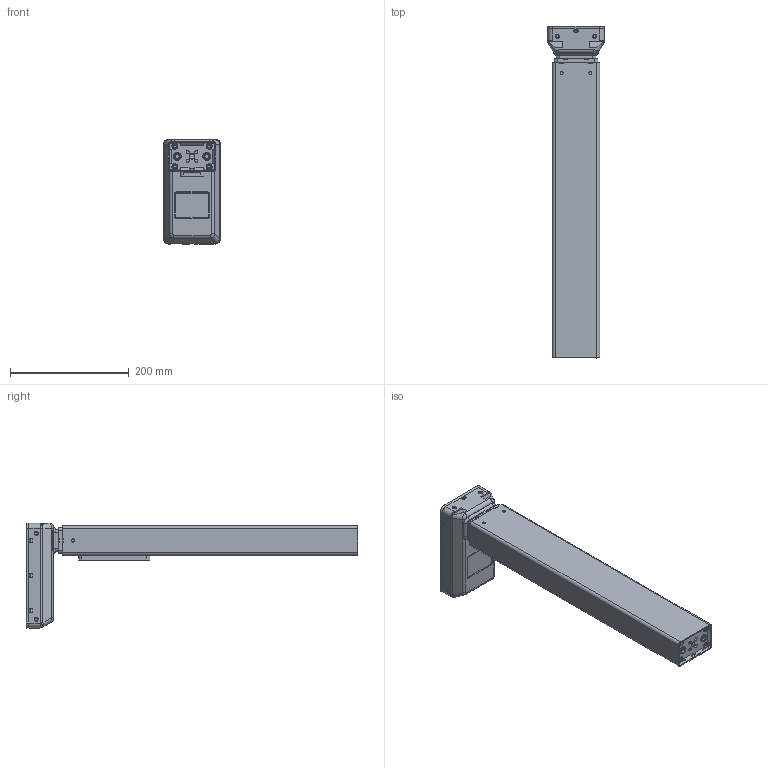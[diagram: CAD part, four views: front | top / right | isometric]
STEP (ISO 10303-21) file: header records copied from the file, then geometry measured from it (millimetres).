
FILE_DESCRIPTION((''),'2;1');
FILE_NAME('DL6_WITH_BRACKET_NEW_ASM','2019-11-04T14:27:33',('egb'),(''),'CREO PARAMETRIC BY PTC INC, 2018400','CREO PARAMETRIC BY PTC INC, 2018400','');
FILE_SCHEMA(('AUTOMOTIVE_DESIGN { 1 0 10303 214 1 1 1 1 }'));
Length unit declared in the file: millimetre
Products named in the file (4): DL6_OP_NEW; DL6_MP_; STANDART_MOTORHUS_DL6_NEW; DL6_WITH_BRACKET_NEW_ASM
Assembly tree (3 placements, depth 2):
  DL6_WITH_BRACKET_NEW_ASM
    DL6_OP_NEW
    DL6_MP_
    STANDART_MOTORHUS_DL6_NEW
Bounding box: 96.5 x 560 x 178.6 mm (x, y, z)
Volume: 2766958.1 mm3; surface area: 207201.4 mm2
Topology: 3 solids, 3 shells, 1002 faces, 2667 edges, 1701 vertices
Faces by surface type: plane 474, cylinder 385, torus 84, bspline 39, sphere 16, cone 4
Entity records: 40172 total; most frequent: CARTESIAN_POINT 9002, ORIENTED_EDGE 5308, DIRECTION 5190, EDGE_CURVE 2654, AXIS2_PLACEMENT_3D 1832, VERTEX_POINT 1701, VECTOR 1526, LINE 1526
